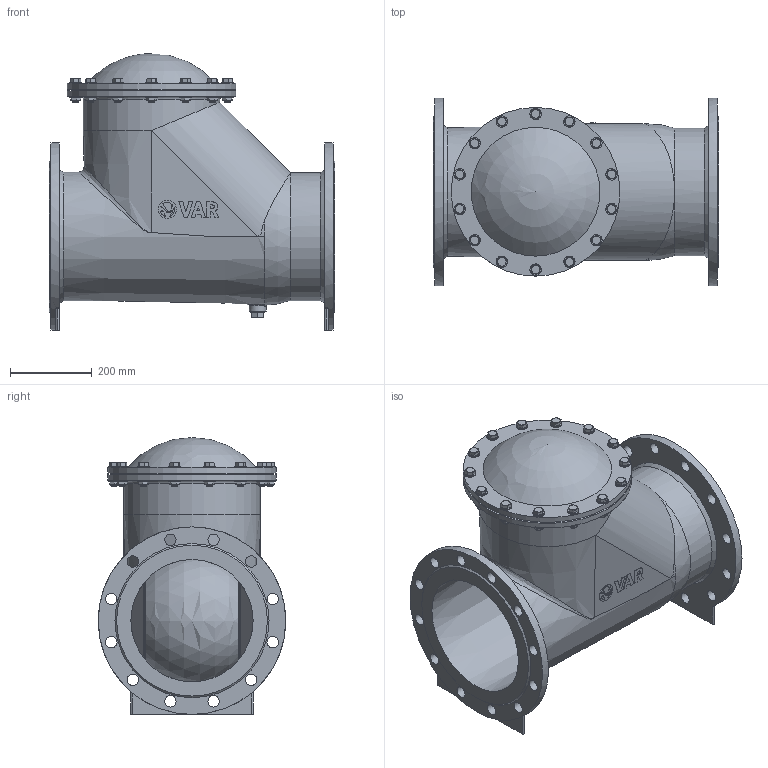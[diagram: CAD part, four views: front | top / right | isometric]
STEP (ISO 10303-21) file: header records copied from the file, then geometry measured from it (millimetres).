
FILE_DESCRIPTION(('STEP AP203'), '1');
FILE_NAME('Øàðîâîé îáðàòíûé êëàïàí VAG KRV', '', ('UNSPECIFIED'), ('UNSPECIFIED'), 'C3D Converter', 'C3D Toolkit', '');
FILE_SCHEMA(('CONFIG_CONTROL_DESIGN'));
Length unit declared in the file: millimetre
Assembly tree (62 placements, depth 2):
  (unnamed)
    (unnamed)
    (unnamed)
    (unnamed)
    (unnamed)
    (unnamed)
    (unnamed)  x14
    (unnamed)  x14
    (unnamed)  x14
    (unnamed)  x14
    (unnamed)
Bounding box: 700 x 460 x 679 mm (x, y, z)
Volume: 31664345.5 mm3; surface area: 3494578.5 mm2
Topology: 63 solids, 64 shells, 937 faces, 2333 edges, 1586 vertices
Faces by surface type: plane 457, extrusion 174, cylinder 165, cone 99, torus 18, bspline 15, sphere 9
Full cylindrical faces by diameter (mm): 14.376 x14, 16 x14, 17 x28, 18 x28, 20 x2, 21 x1, 28 x38, 28.19 x1, 30 x14, 34 x1, 41 x1, 44.406 x1, 300 x1, 314 x1, 321 x1, 335 x1, 414 x2, 460 x2
Entity records: 25113 total; most frequent: CARTESIAN_POINT 9617, ORIENTED_EDGE 2378, DIRECTION 1876, EDGE_CURVE 1189, VERTEX_POINT 841, EDGE_LOOP 732, VECTOR 704, B_SPLINE_CURVE_WITH_KNOTS 626
